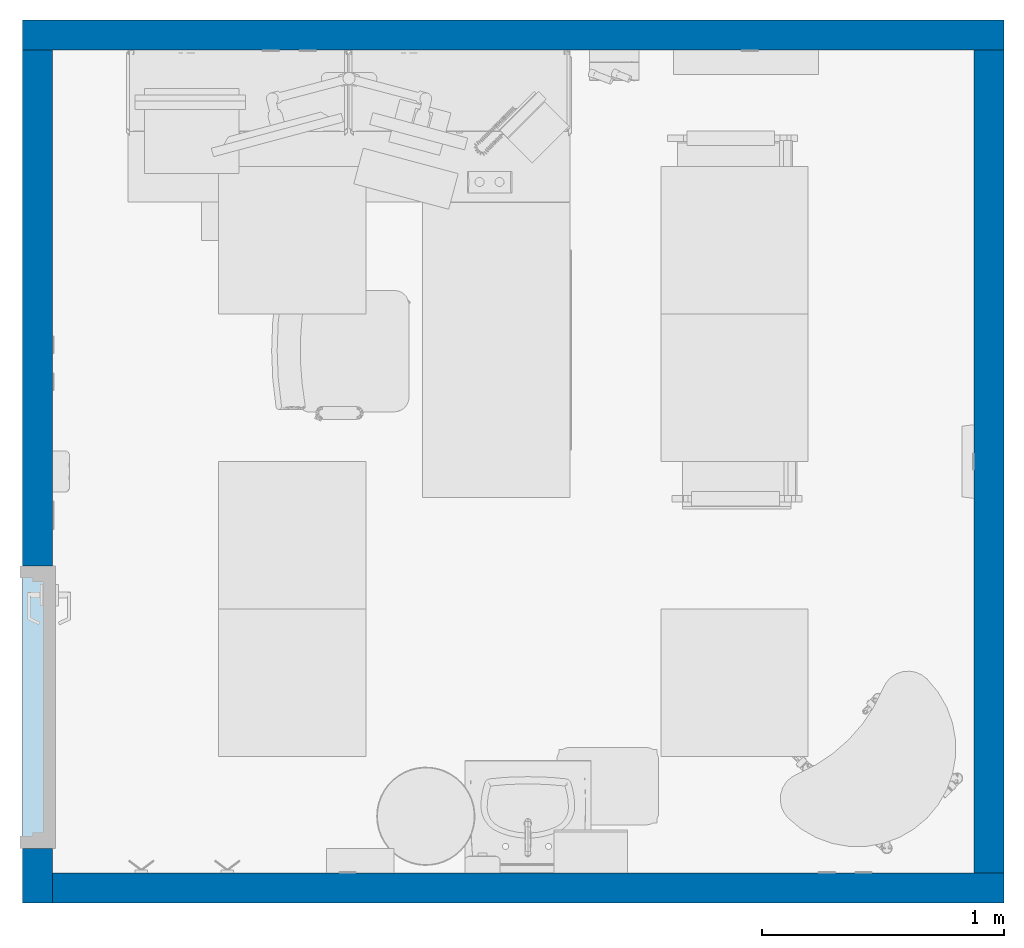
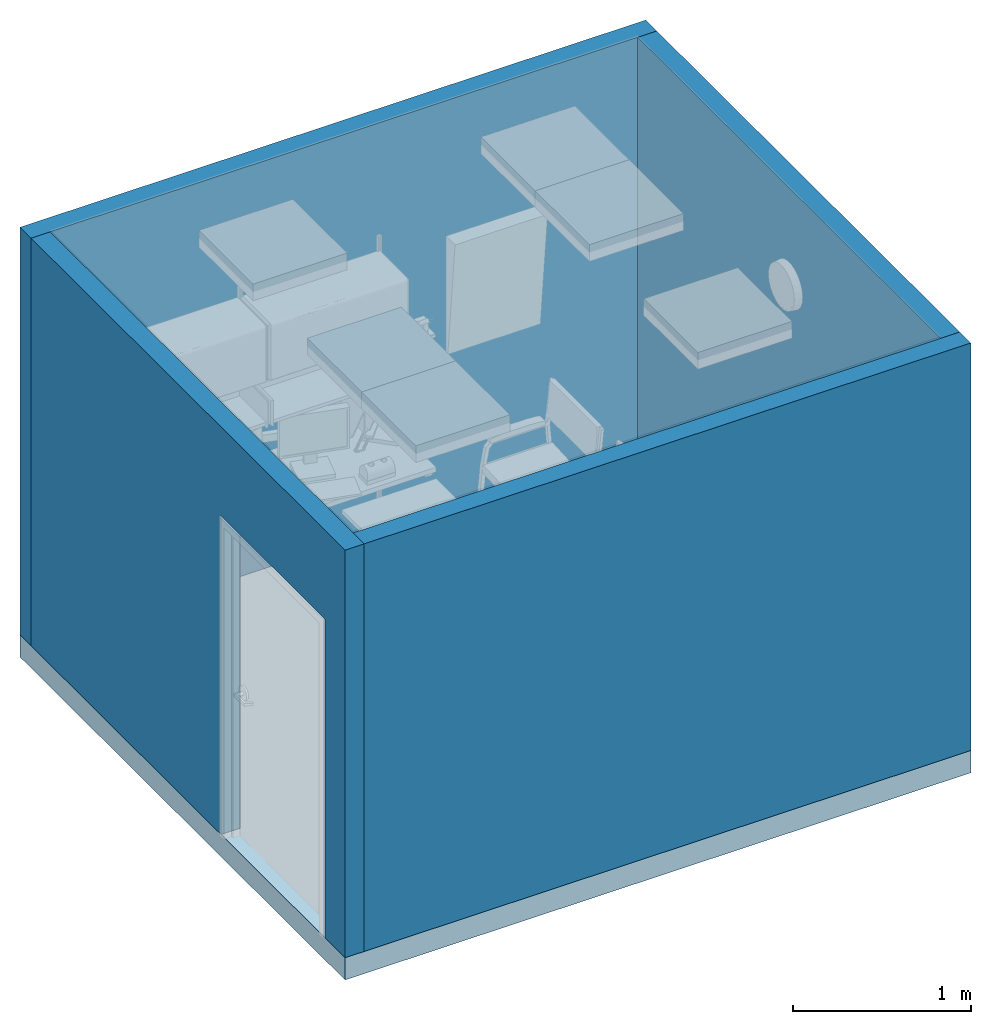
# One storey, part 1 of 9: 4 walls, 1 slab, 1 opening.
"""IFC2X3 building model written with IfcOpenShell, lengths in feet."""

from ifc_helpers import new_model, entity, si_unit, converted_unit, derived_unit, direction, frame, frame_2d, origin, place, context, subcontext, project, spatial, rectangle, extrude, material, layer, layer_set, layer_usage, type_object, element, save


model = new_model("IFC2X3")

# Units and contexts
model_context = context("Model", 3, precision=0.0001, world=origin(), true_north=direction((6.12303176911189e-17, 1.0)))
body_context = subcontext(model_context, "Body", "Model", "MODEL_VIEW")
ifc_project = project(units=[converted_unit("LENGTHUNIT", "FOOT", entity("IfcRatioMeasure", 0.3048), si_unit("LENGTHUNIT", "METRE"), dimensions=[1, 0, 0, 0, 0, 0, 0]), converted_unit("AREAUNIT", "SQUARE FOOT", entity("IfcRatioMeasure", 0.09290304), si_unit("AREAUNIT", "SQUARE_METRE"), dimensions=[2, 0, 0, 0, 0, 0, 0]), converted_unit("VOLUMEUNIT", "CUBIC FOOT", entity("IfcRatioMeasure", 0.028316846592), si_unit("VOLUMEUNIT", "CUBIC_METRE"), dimensions=[3, 0, 0, 0, 0, 0, 0]), converted_unit("PLANEANGLEUNIT", "DEGREE", entity("IfcRatioMeasure", 0.0174532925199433), si_unit("PLANEANGLEUNIT", "RADIAN"), dimensions=[0, 0, 0, 0, 0, 0, 0]), si_unit("MASSUNIT", "GRAM", prefix="KILO"), derived_unit("MASSDENSITYUNIT", [(si_unit("MASSUNIT", "GRAM", prefix="KILO"), 1), (si_unit("LENGTHUNIT", "METRE"), -3)]), si_unit("TIMEUNIT", "SECOND"), si_unit("FREQUENCYUNIT", "HERTZ"), si_unit("THERMODYNAMICTEMPERATUREUNIT", "DEGREE_CELSIUS"), derived_unit("THERMALTRANSMITTANCEUNIT", [(si_unit("MASSUNIT", "GRAM", prefix="KILO"), 1), (si_unit("THERMODYNAMICTEMPERATUREUNIT", "KELVIN"), -1), (si_unit("TIMEUNIT", "SECOND"), -3)]), derived_unit("VOLUMETRICFLOWRATEUNIT", [(si_unit("LENGTHUNIT", "METRE"), 3), (si_unit("TIMEUNIT", "SECOND"), -1)]), si_unit("ELECTRICCURRENTUNIT", "AMPERE"), si_unit("ELECTRICVOLTAGEUNIT", "VOLT"), si_unit("POWERUNIT", "WATT"), si_unit("FORCEUNIT", "NEWTON"), si_unit("ILLUMINANCEUNIT", "LUX"), si_unit("LUMINOUSFLUXUNIT", "LUMEN"), si_unit("LUMINOUSINTENSITYUNIT", "CANDELA"), derived_unit("USERDEFINED", [(si_unit("MASSUNIT", "GRAM", prefix="KILO"), -1), (si_unit("LENGTHUNIT", "METRE"), -2), (si_unit("TIMEUNIT", "SECOND"), 3), (si_unit("LUMINOUSFLUXUNIT", "LUMEN"), 1)]), derived_unit("LINEARVELOCITYUNIT", [(si_unit("LENGTHUNIT", "METRE"), 1), (si_unit("TIMEUNIT", "SECOND"), -1)]), si_unit("PRESSUREUNIT", "PASCAL"), derived_unit("USERDEFINED", [(si_unit("LENGTHUNIT", "METRE"), -2), (si_unit("MASSUNIT", "GRAM", prefix="KILO"), 1), (si_unit("TIMEUNIT", "SECOND"), -2)])], contexts=[model_context])

# Site, building, storey
site_placement = place(None, origin())
site = spatial("IfcSite", under=ifc_project, at=site_placement, Name="Default", CompositionType="ELEMENT")
building_placement = place(site_placement, origin())
building = spatial("IfcBuilding", under=site, at=building_placement, Name="AUDIOLOGY AND SPEECH PATHOLOGY (Ch. 204)", CompositionType="ELEMENT")
storey_placement = place(building_placement, frame((0.0, 0.0, 42.0)))
storey = spatial("IfcBuildingStorey", under=building, at=storey_placement, Name="AUD01 - Audiology Rehabilitation/Counseling", CompositionType="ELEMENT", Elevation=42.0)

# Slab
ifc_material = material(Name="<Unnamed>")
ifc_layer_1 = layer(ifc_material, 0.5)
ifc_layer_set_1 = layer_set([ifc_layer_1], Name="Floor:Generic - 6\"")
ifc_layer_usage_1 = layer_usage(ifc_layer_set_1, "AXIS3", "POSITIVE", 0.0)
slab_placement = place(storey_placement, origin())
element("IfcSlab", 1, at=slab_placement, inside=storey, material=ifc_layer_usage_1, Name="Floor:Generic - 6\"", ObjectType="Floor:Generic - 6\"", PredefinedType="FLOOR", context=body_context, shape_type="SweptSolid", body=[
    extrude(rectangle(XDim=11.9791666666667, YDim=13.3125, at=frame_2d((-1.06581410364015e-14, -8.88178419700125e-16), x_axis=(1.0, 0.0))), frame((5.42708333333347, 6.17708333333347, 0.0), z_axis=(0.0, 0.0, -1.0), x_axis=(0.0, 1.0, 0.0)), (0.0, 0.0, 1.0), 0.5),
])

# Wall
ifc_layer_2 = layer(ifc_material, 0.40625)
ifc_layer_set_2 = layer_set([ifc_layer_2], Name="Basic Wall:Interior - 4 7/8\"")
ifc_layer_usage_2 = layer_usage(ifc_layer_set_2, "AXIS2", "POSITIVE", -0.203125)
wall_type = type_object("IfcWallType", Name="Basic Wall:Interior - 4 7/8\"", PredefinedType="STANDARD", material=ifc_layer_set_2)
wall_1_placement = place(storey_placement, frame((11.8802083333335, 11.7604166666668, 0.0), z_axis=(0.0, 0.0, 1.0), x_axis=(0.0, -1.0, 0.0)))
element("IfcWallStandardCase", 2, at=wall_1_placement, inside=storey, type_object=wall_type, material=ifc_layer_usage_2, Name="Basic Wall:Interior - 4 7/8\"", ObjectType="Basic Wall:Interior - 4 7/8\"", context=body_context, shape_type="SweptSolid", body=[
    extrude(rectangle(XDim=11.1666666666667, YDim=0.40625, at=frame_2d((5.58333333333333, 4.02455846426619e-16), x_axis=(-1.0, 0.0))), origin(), (0.0, 0.0, 1.0), 9.16666666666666),
])

# Wall, opening
ifc_layer_usage_3 = layer_usage(ifc_layer_set_2, "AXIS2", "POSITIVE", -0.203125)
wall_2_placement = place(storey_placement, frame((-1.02604166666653, 0.187500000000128, 0.0), z_axis=(0.0, 0.0, 1.0), x_axis=(0.0, 1.0, 0.0)))
wall_2 = element("IfcWallStandardCase", 3, at=wall_2_placement, inside=storey, type_object=wall_type, material=ifc_layer_usage_3, Name="Basic Wall:Interior - 4 7/8\"", ObjectType="Basic Wall:Interior - 4 7/8\"", context=body_context, shape_type="SweptSolid", body=[
    extrude(rectangle(XDim=11.5729166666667, YDim=0.40625, at=frame_2d((5.78645833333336, 1.38777878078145e-17), x_axis=(-1.0, 0.0))), origin(), (0.0, 0.0, 1.0), 9.16666666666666),
])
opening_placement = place(wall_2_placement, frame((4.57291666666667, 0.203125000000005, 0.0)))
element("IfcOpeningElement", 4, at=opening_placement, cuts=wall_2, Name="Single - Flush:42\" x 84\":1", ObjectType="Opening", context=body_context, shape_type="SweptSolid", body=[
    extrude(rectangle(XDim=3.83333333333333, YDim=7.16666666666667, at=frame_2d((3.58333333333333, 1.91666666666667), x_axis=(0.0, 1.0))), frame((0.0, 0.0, 0.0), z_axis=(0.0, -1.0, 0.0), x_axis=(0.0, 0.0, 1.0)), (0.0, 0.0, 1.0), 0.40625),
])

# Walls
ifc_layer_usage_4 = layer_usage(ifc_layer_set_2, "AXIS2", "NEGATIVE", 0.203125)
wall_3_placement = place(storey_placement, frame((-0.822916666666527, 0.390625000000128, 0.0)))
element("IfcWallStandardCase", 5, at=wall_3_placement, inside=storey, type_object=wall_type, material=ifc_layer_usage_4, Name="Basic Wall:Interior - 4 7/8\"", ObjectType="Basic Wall:Interior - 4 7/8\"", context=body_context, shape_type="SweptSolid", body=[
    extrude(rectangle(XDim=12.90625, YDim=0.40625, at=frame_2d((6.453125, 0.0), x_axis=(-1.0, 0.0))), origin(), (0.0, 0.0, 1.0), 9.16666666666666),
])
ifc_layer_usage_5 = layer_usage(ifc_layer_set_2, "AXIS2", "NEGATIVE", 0.203125)
wall_4_placement = place(storey_placement, frame((-1.22916666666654, 11.9635416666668, 0.0)))
element("IfcWallStandardCase", 6, at=wall_4_placement, inside=storey, type_object=wall_type, material=ifc_layer_usage_5, Name="Basic Wall:Interior - 4 7/8\"", ObjectType="Basic Wall:Interior - 4 7/8\"", context=body_context, shape_type="SweptSolid", body=[
    extrude(rectangle(XDim=13.3125, YDim=0.40625, at=frame_2d((6.65625, -2.4980018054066e-16), x_axis=(-1.0, 0.0))), origin(), (0.0, 0.0, 1.0), 9.16666666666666),
])

save(model, "model.ifc")
